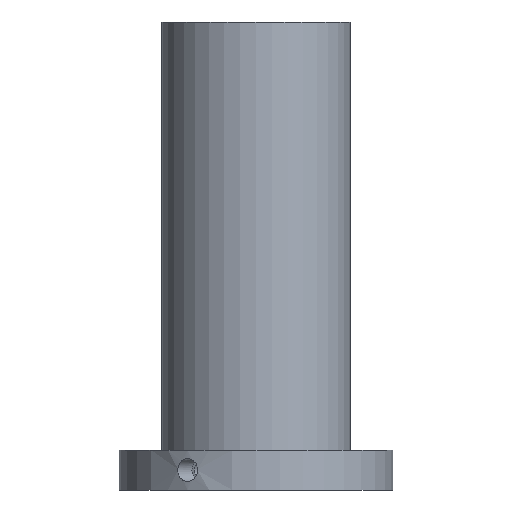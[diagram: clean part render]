
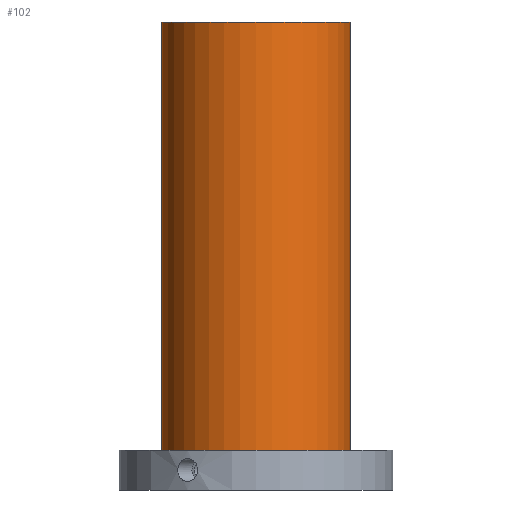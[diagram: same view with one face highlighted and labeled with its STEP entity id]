
A CAD part, front view. The second image highlights one B-rep face of the part: STEP entity #102.
In plain terms, the highlighted cylindrical face has radius 33 mm (diameter 66 mm), a full revolution.
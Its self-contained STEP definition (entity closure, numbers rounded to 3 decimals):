
#102=ADVANCED_FACE('',(#136,#137),#119,.T.);
#119=CYLINDRICAL_SURFACE('',#371,33.);
#136=FACE_BOUND('',#188,.T.);
#137=FACE_BOUND('',#189,.T.);
#188=EDGE_LOOP('',(#240));
#189=EDGE_LOOP('',(#241));
#240=ORIENTED_EDGE('',*,*,#318,.F.);
#241=ORIENTED_EDGE('',*,*,#319,.T.);
#292=VERTEX_POINT('',#557);
#293=VERTEX_POINT('',#559);
#318=EDGE_CURVE('',#292,#292,#343,.T.);
#319=EDGE_CURVE('',#293,#293,#344,.T.);
#343=CIRCLE('',#369,33.);
#344=CIRCLE('',#370,33.);
#369=AXIS2_PLACEMENT_3D('',#556,#415,#416);
#370=AXIS2_PLACEMENT_3D('',#558,#417,#418);
#371=AXIS2_PLACEMENT_3D('',#560,#419,#420);
#415=DIRECTION('',(0.,0.,-1.));
#416=DIRECTION('',(1.,0.,0.));
#417=DIRECTION('',(0.,0.,-1.));
#418=DIRECTION('',(1.,0.,0.));
#419=DIRECTION('',(0.,0.,-1.));
#420=DIRECTION('',(-1.,0.,0.));
#556=CARTESIAN_POINT('',(0.,0.,14.));
#557=CARTESIAN_POINT('',(33.,0.,14.));
#558=CARTESIAN_POINT('',(0.,0.,164.));
#559=CARTESIAN_POINT('',(33.,0.,164.));
#560=CARTESIAN_POINT('',(0.,0.,164.));
